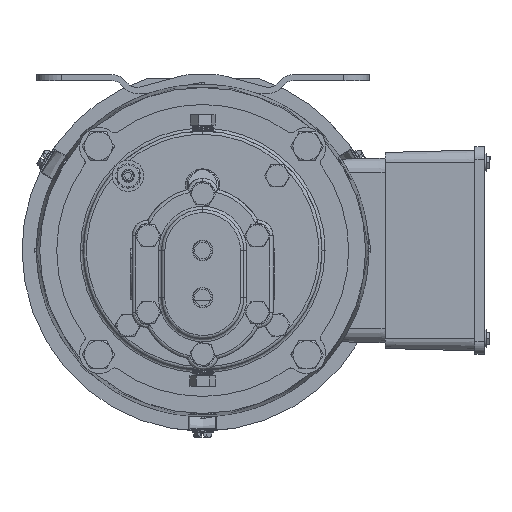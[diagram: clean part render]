
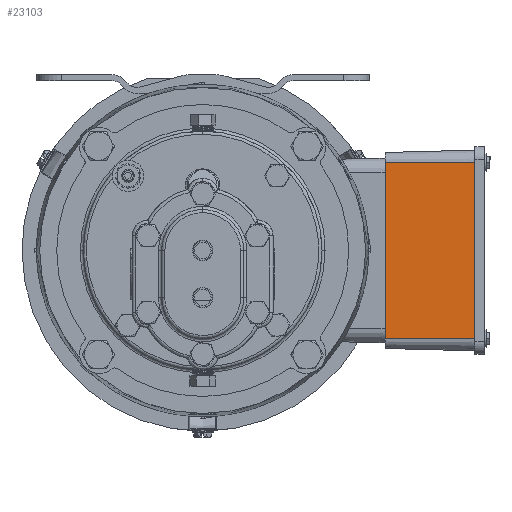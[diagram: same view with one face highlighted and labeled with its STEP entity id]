
A CAD part, front view. The second image highlights one B-rep face of the part: STEP entity #23103.
In plain terms, the highlighted planar face has unit normal (-0.026, -1, 0).
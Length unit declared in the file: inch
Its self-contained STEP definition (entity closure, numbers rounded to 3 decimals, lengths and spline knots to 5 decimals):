
#2468 = VERTEX_POINT ( 'NONE', #14675 ) ;
#7694 = CARTESIAN_POINT ( 'NONE',  ( 3.63007, 12.16923, -1.281 ) ) ;
#13057 = FACE_OUTER_BOUND ( 'NONE', #15780, .T. ) ;
#13504 = ORIENTED_EDGE ( 'NONE', *, *, #26213, .F. ) ;
#14675 = CARTESIAN_POINT ( 'NONE',  ( 3.63007, 12.16923, 2.219 ) ) ;
#15780 = EDGE_LOOP ( 'NONE', ( #13504, #64013, #40775, #52837 ) ) ;
#16503 = CARTESIAN_POINT ( 'NONE',  ( 3.63007, 12.16923, -1.281 ) ) ;
#20399 = VECTOR ( 'NONE', #54259, 39.37008 ) ;
#22554 = DIRECTION ( 'NONE',  ( 0., 0., 1. ) ) ;
#23103 = ADVANCED_FACE ( 'NONE', ( #13057 ), #64681, .T. ) ;
#26213 = EDGE_CURVE ( 'NONE', #2468, #56664, #50328, .T. ) ;
#33244 = CARTESIAN_POINT ( 'NONE',  ( 5.41507, 12.12249, 2.219 ) ) ;
#35960 = DIRECTION ( 'NONE',  ( 1., -0.026, 0. ) ) ;
#40775 = ORIENTED_EDGE ( 'NONE', *, *, #64123, .T. ) ;
#41781 = CARTESIAN_POINT ( 'NONE',  ( 5.41507, 12.12249, -1.281 ) ) ;
#45880 = AXIS2_PLACEMENT_3D ( 'NONE', #64996, #51438, #35960 ) ;
#47102 = CARTESIAN_POINT ( 'NONE',  ( 19645.66929, -502.17567, 2.219 ) ) ;
#50328 = LINE ( 'NONE', #47102, #91200 ) ;
#50499 = LINE ( 'NONE', #7694, #63787 ) ;
#50833 = EDGE_CURVE ( 'NONE', #63917, #2468, #50499, .T. ) ;
#51086 = VECTOR ( 'NONE', #77588, 39.37008 ) ;
#51438 = DIRECTION ( 'NONE',  ( -0.026, -1., 0. ) ) ;
#52540 = LINE ( 'NONE', #55167, #20399 ) ;
#52837 = ORIENTED_EDGE ( 'NONE', *, *, #65568, .T. ) ;
#54259 = DIRECTION ( 'NONE',  ( 1., -0.026, 0. ) ) ;
#55167 = CARTESIAN_POINT ( 'NONE',  ( 5.51007, 12.12, -1.281 ) ) ;
#56664 = VERTEX_POINT ( 'NONE', #33244 ) ;
#63787 = VECTOR ( 'NONE', #22554, 39.37008 ) ;
#63917 = VERTEX_POINT ( 'NONE', #16503 ) ;
#64013 = ORIENTED_EDGE ( 'NONE', *, *, #50833, .F. ) ;
#64123 = EDGE_CURVE ( 'NONE', #63917, #74640, #52540, .T. ) ;
#64681 = PLANE ( 'NONE',  #45880 ) ;
#64996 = CARTESIAN_POINT ( 'NONE',  ( 5.51007, 12.12, -1.281 ) ) ;
#65568 = EDGE_CURVE ( 'NONE', #74640, #56664, #70986, .T. ) ;
#70986 = LINE ( 'NONE', #41781, #51086 ) ;
#74640 = VERTEX_POINT ( 'NONE', #75840 ) ;
#75840 = CARTESIAN_POINT ( 'NONE',  ( 5.41507, 12.12249, -1.281 ) ) ;
#77588 = DIRECTION ( 'NONE',  ( 0., 0., 1. ) ) ;
#89726 = DIRECTION ( 'NONE',  ( 1., -0.026, 0. ) ) ;
#91200 = VECTOR ( 'NONE', #89726, 39.37008 ) ;
